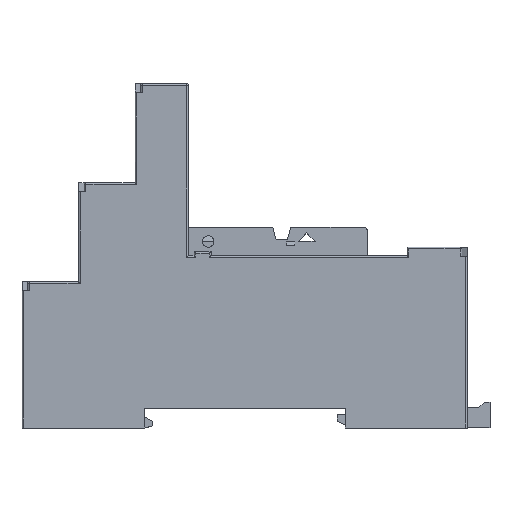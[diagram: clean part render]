
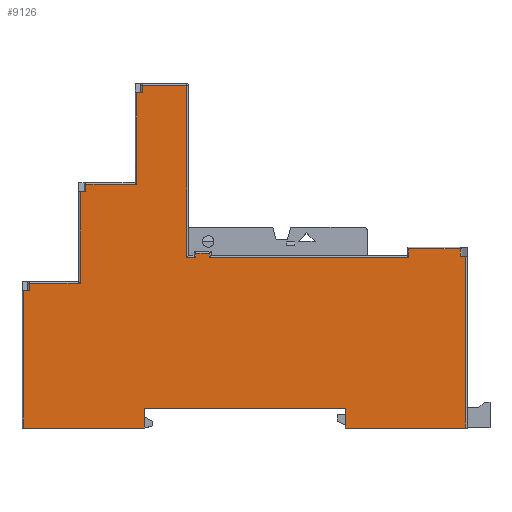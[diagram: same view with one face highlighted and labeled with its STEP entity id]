
A CAD part, top view. The second image highlights one B-rep face of the part: STEP entity #9126.
In plain terms, the highlighted planar face has unit normal (0, 0, 1).
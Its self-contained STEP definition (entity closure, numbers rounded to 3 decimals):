
#306=ORIENTED_EDGE('',*,*,#2960,.F.);
#307=ORIENTED_EDGE('',*,*,#2961,.F.);
#308=ORIENTED_EDGE('',*,*,#2962,.F.);
#309=ORIENTED_EDGE('',*,*,#2963,.F.);
#310=ORIENTED_EDGE('',*,*,#2964,.F.);
#311=ORIENTED_EDGE('',*,*,#2965,.F.);
#312=ORIENTED_EDGE('',*,*,#2966,.F.);
#313=ORIENTED_EDGE('',*,*,#2967,.F.);
#314=ORIENTED_EDGE('',*,*,#2968,.F.);
#315=ORIENTED_EDGE('',*,*,#2969,.F.);
#316=ORIENTED_EDGE('',*,*,#2970,.F.);
#317=ORIENTED_EDGE('',*,*,#2971,.F.);
#318=ORIENTED_EDGE('',*,*,#2972,.F.);
#319=ORIENTED_EDGE('',*,*,#2973,.F.);
#320=ORIENTED_EDGE('',*,*,#2974,.F.);
#321=ORIENTED_EDGE('',*,*,#2975,.F.);
#322=ORIENTED_EDGE('',*,*,#2976,.F.);
#323=ORIENTED_EDGE('',*,*,#2977,.F.);
#324=ORIENTED_EDGE('',*,*,#2978,.F.);
#325=ORIENTED_EDGE('',*,*,#2979,.F.);
#326=ORIENTED_EDGE('',*,*,#2980,.F.);
#327=ORIENTED_EDGE('',*,*,#2981,.F.);
#328=ORIENTED_EDGE('',*,*,#2982,.F.);
#329=ORIENTED_EDGE('',*,*,#2983,.F.);
#330=ORIENTED_EDGE('',*,*,#2984,.F.);
#331=ORIENTED_EDGE('',*,*,#2985,.F.);
#332=ORIENTED_EDGE('',*,*,#2986,.F.);
#333=ORIENTED_EDGE('',*,*,#2987,.F.);
#2960=EDGE_CURVE('',#4287,#4288,#5156,.T.);
#2961=EDGE_CURVE('',#4289,#4287,#5157,.T.);
#2962=EDGE_CURVE('',#4290,#4289,#5158,.T.);
#2963=EDGE_CURVE('',#4291,#4290,#5159,.T.);
#2964=EDGE_CURVE('',#4292,#4291,#5160,.T.);
#2965=EDGE_CURVE('',#4293,#4292,#5161,.T.);
#2966=EDGE_CURVE('',#4294,#4293,#5162,.T.);
#2967=EDGE_CURVE('',#4295,#4294,#5163,.T.);
#2968=EDGE_CURVE('',#4296,#4295,#5164,.T.);
#2969=EDGE_CURVE('',#4297,#4296,#5165,.T.);
#2970=EDGE_CURVE('',#4298,#4297,#5166,.T.);
#2971=EDGE_CURVE('',#4299,#4298,#5167,.T.);
#2972=EDGE_CURVE('',#4300,#4299,#5168,.T.);
#2973=EDGE_CURVE('',#4301,#4300,#5169,.T.);
#2974=EDGE_CURVE('',#4302,#4301,#5170,.T.);
#2975=EDGE_CURVE('',#4303,#4302,#5171,.T.);
#2976=EDGE_CURVE('',#4304,#4303,#5172,.T.);
#2977=EDGE_CURVE('',#4305,#4304,#5173,.T.);
#2978=EDGE_CURVE('',#4306,#4305,#5174,.T.);
#2979=EDGE_CURVE('',#4307,#4306,#5175,.T.);
#2980=EDGE_CURVE('',#4308,#4307,#5176,.T.);
#2981=EDGE_CURVE('',#4309,#4308,#5177,.T.);
#2982=EDGE_CURVE('',#4310,#4309,#5178,.T.);
#2983=EDGE_CURVE('',#4311,#4310,#5179,.T.);
#2984=EDGE_CURVE('',#4312,#4311,#5180,.T.);
#2985=EDGE_CURVE('',#4313,#4312,#5181,.T.);
#2986=EDGE_CURVE('',#4314,#4313,#5182,.T.);
#2987=EDGE_CURVE('',#4288,#4314,#5183,.T.);
#4287=VERTEX_POINT('',#12904);
#4288=VERTEX_POINT('',#12905);
#4289=VERTEX_POINT('',#12907);
#4290=VERTEX_POINT('',#12909);
#4291=VERTEX_POINT('',#12911);
#4292=VERTEX_POINT('',#12913);
#4293=VERTEX_POINT('',#12915);
#4294=VERTEX_POINT('',#12917);
#4295=VERTEX_POINT('',#12919);
#4296=VERTEX_POINT('',#12921);
#4297=VERTEX_POINT('',#12923);
#4298=VERTEX_POINT('',#12925);
#4299=VERTEX_POINT('',#12927);
#4300=VERTEX_POINT('',#12929);
#4301=VERTEX_POINT('',#12931);
#4302=VERTEX_POINT('',#12933);
#4303=VERTEX_POINT('',#12935);
#4304=VERTEX_POINT('',#12937);
#4305=VERTEX_POINT('',#12939);
#4306=VERTEX_POINT('',#12941);
#4307=VERTEX_POINT('',#12943);
#4308=VERTEX_POINT('',#12945);
#4309=VERTEX_POINT('',#12947);
#4310=VERTEX_POINT('',#12949);
#4311=VERTEX_POINT('',#12951);
#4312=VERTEX_POINT('',#12953);
#4313=VERTEX_POINT('',#12955);
#4314=VERTEX_POINT('',#12957);
#5156=LINE('',#12903,#6342);
#5157=LINE('',#12906,#6343);
#5158=LINE('',#12908,#6344);
#5159=LINE('',#12910,#6345);
#5160=LINE('',#12912,#6346);
#5161=LINE('',#12914,#6347);
#5162=LINE('',#12916,#6348);
#5163=LINE('',#12918,#6349);
#5164=LINE('',#12920,#6350);
#5165=LINE('',#12922,#6351);
#5166=LINE('',#12924,#6352);
#5167=LINE('',#12926,#6353);
#5168=LINE('',#12928,#6354);
#5169=LINE('',#12930,#6355);
#5170=LINE('',#12932,#6356);
#5171=LINE('',#12934,#6357);
#5172=LINE('',#12936,#6358);
#5173=LINE('',#12938,#6359);
#5174=LINE('',#12940,#6360);
#5175=LINE('',#12942,#6361);
#5176=LINE('',#12944,#6362);
#5177=LINE('',#12946,#6363);
#5178=LINE('',#12948,#6364);
#5179=LINE('',#12950,#6365);
#5180=LINE('',#12952,#6366);
#5181=LINE('',#12954,#6367);
#5182=LINE('',#12956,#6368);
#5183=LINE('',#12958,#6369);
#6342=VECTOR('',#10379,1000.);
#6343=VECTOR('',#10380,1000.);
#6344=VECTOR('',#10381,1000.);
#6345=VECTOR('',#10382,1000.);
#6346=VECTOR('',#10383,1000.);
#6347=VECTOR('',#10384,1000.);
#6348=VECTOR('',#10385,1000.);
#6349=VECTOR('',#10386,1000.);
#6350=VECTOR('',#10387,1000.);
#6351=VECTOR('',#10388,1000.);
#6352=VECTOR('',#10389,1000.);
#6353=VECTOR('',#10390,1000.);
#6354=VECTOR('',#10391,1000.);
#6355=VECTOR('',#10392,1000.);
#6356=VECTOR('',#10393,1000.);
#6357=VECTOR('',#10394,1000.);
#6358=VECTOR('',#10395,1000.);
#6359=VECTOR('',#10396,1000.);
#6360=VECTOR('',#10397,1000.);
#6361=VECTOR('',#10398,1000.);
#6362=VECTOR('',#10399,1000.);
#6363=VECTOR('',#10400,1000.);
#6364=VECTOR('',#10401,1000.);
#6365=VECTOR('',#10402,1000.);
#6366=VECTOR('',#10403,1000.);
#6367=VECTOR('',#10404,1000.);
#6368=VECTOR('',#10405,1000.);
#6369=VECTOR('',#10406,1000.);
#7528=EDGE_LOOP('',(#306,#307,#308,#309,#310,#311,#312,#313,#314,#315,#316,
#317,#318,#319,#320,#321,#322,#323,#324,#325,#326,#327,#328,#329,#330,#331,
#332,#333));
#8110=FACE_BOUND('',#7528,.T.);
#8692=PLANE('',#9706);
#9126=ADVANCED_FACE('',(#8110),#8692,.T.);
#9706=AXIS2_PLACEMENT_3D('',#12902,#10377,#10378);
#10377=DIRECTION('',(0.,0.,1.));
#10378=DIRECTION('',(1.,0.,0.));
#10379=DIRECTION('',(0.,-1.,0.));
#10380=DIRECTION('',(1.,0.,0.));
#10381=DIRECTION('',(0.,-1.,0.));
#10382=DIRECTION('',(1.,0.,0.));
#10383=DIRECTION('',(0.,1.,0.));
#10384=DIRECTION('',(1.,0.,0.));
#10385=DIRECTION('',(0.,-1.,0.));
#10386=DIRECTION('',(1.,0.,0.));
#10387=DIRECTION('',(0.,1.,0.));
#10388=DIRECTION('',(1.,0.,0.));
#10389=DIRECTION('',(0.,-1.,0.));
#10390=DIRECTION('',(1.,0.,0.));
#10391=DIRECTION('',(0.,1.,0.));
#10392=DIRECTION('',(1.,0.,0.));
#10393=DIRECTION('',(0.,1.,0.));
#10394=DIRECTION('',(1.,0.,0.));
#10395=DIRECTION('',(0.,1.,0.));
#10396=DIRECTION('',(1.,0.,0.));
#10397=DIRECTION('',(0.,1.,0.));
#10398=DIRECTION('',(1.,0.,0.));
#10399=DIRECTION('',(0.,1.,0.));
#10400=DIRECTION('',(1.,0.,0.));
#10401=DIRECTION('',(0.,1.,0.));
#10402=DIRECTION('',(-1.,0.,0.));
#10403=DIRECTION('',(0.,-1.,0.));
#10404=DIRECTION('',(-1.,0.,0.));
#10405=DIRECTION('',(0.,1.,0.));
#10406=DIRECTION('',(-1.,0.,0.));
#12902=CARTESIAN_POINT('',(60.295,29.772,7.9));
#12903=CARTESIAN_POINT('',(102.381,34.181,7.9));
#12904=CARTESIAN_POINT('',(102.381,36.991,7.9));
#12905=CARTESIAN_POINT('',(102.381,6.591,7.9));
#12906=CARTESIAN_POINT('',(102.681,36.991,7.9));
#12907=CARTESIAN_POINT('',(101.381,36.991,7.9));
#12908=CARTESIAN_POINT('',(101.381,34.031,7.9));
#12909=CARTESIAN_POINT('',(101.381,38.291,7.9));
#12910=CARTESIAN_POINT('',(76.164,38.291,7.9));
#12911=CARTESIAN_POINT('',(92.333,38.291,7.9));
#12912=CARTESIAN_POINT('',(92.333,33.431,7.9));
#12913=CARTESIAN_POINT('',(92.333,36.791,7.9));
#12914=CARTESIAN_POINT('',(73.064,36.791,7.9));
#12915=CARTESIAN_POINT('',(57.033,36.791,7.9));
#12916=CARTESIAN_POINT('',(57.033,33.781,7.9));
#12917=CARTESIAN_POINT('',(57.033,37.491,7.9));
#12918=CARTESIAN_POINT('',(57.314,37.491,7.9));
#12919=CARTESIAN_POINT('',(54.633,37.491,7.9));
#12920=CARTESIAN_POINT('',(54.633,33.431,7.9));
#12921=CARTESIAN_POINT('',(54.633,36.791,7.9));
#12922=CARTESIAN_POINT('',(73.064,36.791,7.9));
#12923=CARTESIAN_POINT('',(53.033,36.791,7.9));
#12924=CARTESIAN_POINT('',(53.033,35.931,7.9));
#12925=CARTESIAN_POINT('',(53.033,67.187,7.9));
#12926=CARTESIAN_POINT('',(52.739,67.187,7.9));
#12927=CARTESIAN_POINT('',(45.183,67.187,7.9));
#12928=CARTESIAN_POINT('',(45.183,47.829,7.9));
#12929=CARTESIAN_POINT('',(45.183,65.887,7.9));
#12930=CARTESIAN_POINT('',(52.089,65.887,7.9));
#12931=CARTESIAN_POINT('',(44.183,65.887,7.9));
#12932=CARTESIAN_POINT('',(44.183,39.881,7.9));
#12933=CARTESIAN_POINT('',(44.183,49.691,7.9));
#12934=CARTESIAN_POINT('',(47.739,49.691,7.9));
#12935=CARTESIAN_POINT('',(35.183,49.691,7.9));
#12936=CARTESIAN_POINT('',(35.183,39.081,7.9));
#12937=CARTESIAN_POINT('',(35.183,48.391,7.9));
#12938=CARTESIAN_POINT('',(47.089,48.391,7.9));
#12939=CARTESIAN_POINT('',(34.183,48.391,7.9));
#12940=CARTESIAN_POINT('',(34.183,31.131,7.9));
#12941=CARTESIAN_POINT('',(34.183,32.191,7.9));
#12942=CARTESIAN_POINT('',(42.347,32.191,7.9));
#12943=CARTESIAN_POINT('',(25.183,32.191,7.9));
#12944=CARTESIAN_POINT('',(25.183,30.331,7.9));
#12945=CARTESIAN_POINT('',(25.183,30.891,7.9));
#12946=CARTESIAN_POINT('',(42.089,30.891,7.9));
#12947=CARTESIAN_POINT('',(24.183,30.891,7.9));
#12948=CARTESIAN_POINT('',(24.183,18.181,7.9));
#12949=CARTESIAN_POINT('',(24.183,6.591,7.9));
#12950=CARTESIAN_POINT('',(23.883,6.591,7.9));
#12951=CARTESIAN_POINT('',(45.481,6.591,7.9));
#12952=CARTESIAN_POINT('',(45.481,6.591,7.9));
#12953=CARTESIAN_POINT('',(45.481,10.091,7.9));
#12954=CARTESIAN_POINT('',(45.481,10.091,7.9));
#12955=CARTESIAN_POINT('',(81.081,10.091,7.9));
#12956=CARTESIAN_POINT('',(81.081,10.091,7.9));
#12957=CARTESIAN_POINT('',(81.081,6.591,7.9));
#12958=CARTESIAN_POINT('',(81.081,6.591,7.9));
